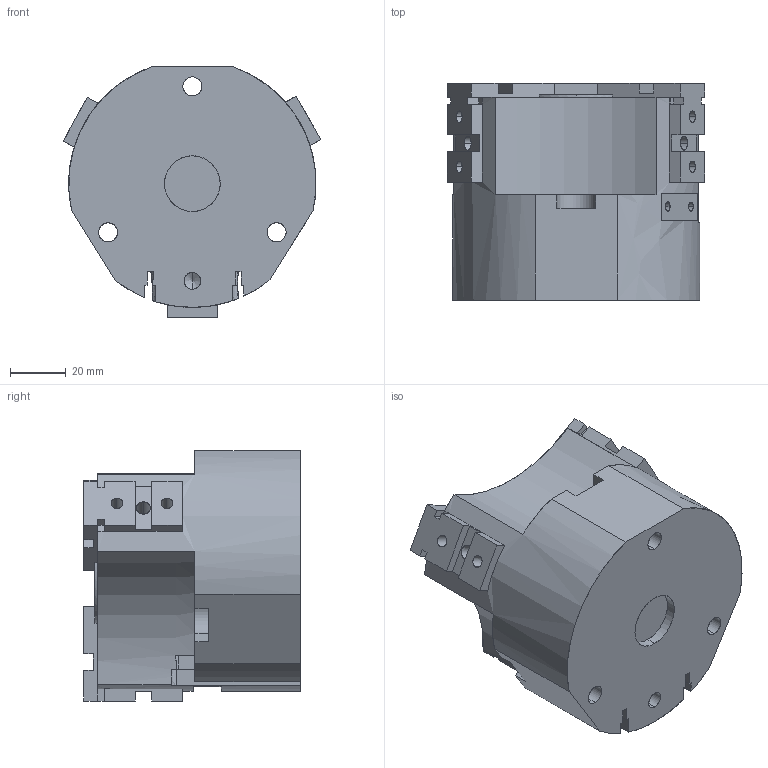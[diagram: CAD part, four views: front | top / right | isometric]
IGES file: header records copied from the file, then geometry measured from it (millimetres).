
Start section: SolidWorks IGES file using analytic representation for surfaces
Global section: file name: C:\Documents and Settings\SGA\Bureau\ROMAIN\OPE 90-3 S\OPE 90-3 S fermé.IGS; native system: SolidWorks 2010; preprocessor: SolidWorks 2010; author: SGA; date: 110928.095322; units: millimetre
Bounding box: 92.68 x 78 x 90 mm (x, y, z)
Surface area: 63890.5 mm2 (no closed solid volume)
Topology: 0 solids, 0 shells, 599 faces, 6746 edges, 6700 vertices
Faces by surface type: bspline 479, revolution 120
